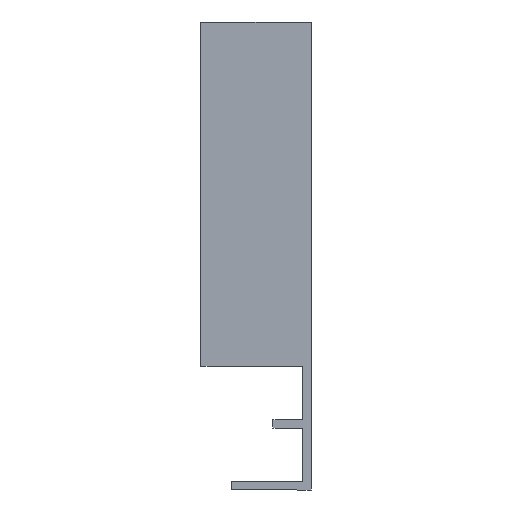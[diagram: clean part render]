
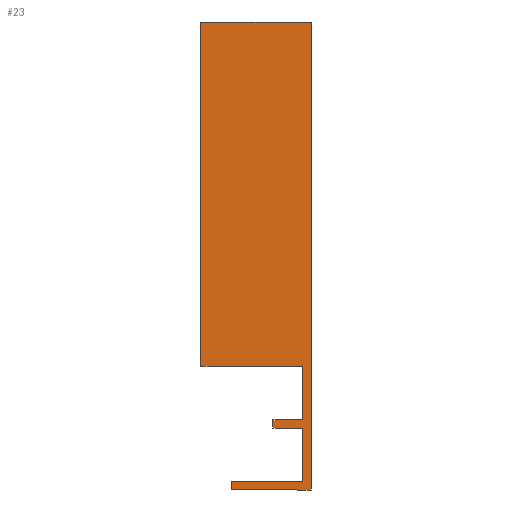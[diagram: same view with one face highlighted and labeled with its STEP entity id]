
A CAD part, left-side view. The second image highlights one B-rep face of the part: STEP entity #23.
In plain terms, the highlighted planar face has unit normal (-1, 0, 0).
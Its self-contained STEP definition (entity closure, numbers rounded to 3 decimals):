
#2 = VERTEX_POINT ( 'NONE', #194 ) ;
#5 = VERTEX_POINT ( 'NONE', #7 ) ;
#7 = CARTESIAN_POINT ( 'NONE',  ( -436.5, 6., -17.9 ) ) ;
#8 = VERTEX_POINT ( 'NONE', #180 ) ;
#23 = ADVANCED_FACE ( 'NONE', ( #307 ), #231, .T. ) ;
#33 = EDGE_CURVE ( 'NONE', #5, #217, #291, .T. ) ;
#34 = EDGE_CURVE ( 'NONE', #171, #221, #292, .T. ) ;
#36 = EDGE_CURVE ( 'NONE', #8, #2, #293, .T. ) ;
#39 = EDGE_CURVE ( 'NONE', #219, #171, #534, .T. ) ;
#40 = EDGE_CURVE ( 'NONE', #210, #219, #530, .T. ) ;
#52 = EDGE_CURVE ( 'NONE', #208, #5, #288, .T. ) ;
#53 = EDGE_CURVE ( 'NONE', #212, #210, #526, .T. ) ;
#57 = EDGE_CURVE ( 'NONE', #221, #193, #124, .T. ) ;
#60 = AXIS2_PLACEMENT_3D ( 'NONE', #234, #240, #241 ) ;
#67 = EDGE_CURVE ( 'NONE', #193, #208, #156, .T. ) ;
#70 = EDGE_CURVE ( 'NONE', #2, #174, #164, .T. ) ;
#76 = EDGE_CURVE ( 'NONE', #217, #8, #148, .T. ) ;
#98 = EDGE_CURVE ( 'NONE', #174, #212, #122, .T. ) ;
#121 = VECTOR ( 'NONE', #450, 1000. ) ;
#122 = LINE ( 'NONE', #449, #121 ) ;
#124 = LINE ( 'NONE', #544, #162 ) ;
#147 = VECTOR ( 'NONE', #420, 1000. ) ;
#148 = LINE ( 'NONE', #419, #147 ) ;
#150 = VECTOR ( 'NONE', #418, 1000. ) ;
#155 = VECTOR ( 'NONE', #412, 1000. ) ;
#156 = LINE ( 'NONE', #411, #155 ) ;
#162 = VECTOR ( 'NONE', #404, 1000. ) ;
#164 = LINE ( 'NONE', #416, #150 ) ;
#171 = VERTEX_POINT ( 'NONE', #461 ) ;
#174 = VERTEX_POINT ( 'NONE', #463 ) ;
#180 = CARTESIAN_POINT ( 'NONE',  ( -436.5, -5.5, 49.7 ) ) ;
#193 = VERTEX_POINT ( 'NONE', #466 ) ;
#194 = CARTESIAN_POINT ( 'NONE',  ( -436.5, 10.4, 49.7 ) ) ;
#208 = VERTEX_POINT ( 'NONE', #460 ) ;
#210 = VERTEX_POINT ( 'NONE', #469 ) ;
#212 = VERTEX_POINT ( 'NONE', #472 ) ;
#217 = VERTEX_POINT ( 'NONE', #477 ) ;
#219 = VERTEX_POINT ( 'NONE', #479 ) ;
#221 = VERTEX_POINT ( 'NONE', #481 ) ;
#231 = PLANE ( 'NONE',  #60 ) ;
#234 = CARTESIAN_POINT ( 'NONE',  ( -436.5, 6., -16.7 ) ) ;
#240 = DIRECTION ( 'NONE',  ( -1., 0., 0. ) ) ;
#241 = DIRECTION ( 'NONE',  ( 0., -1., 0. ) ) ;
#263 = CARTESIAN_POINT ( 'NONE',  ( -436.5, 6., -17.9 ) ) ;
#268 = CARTESIAN_POINT ( 'NONE',  ( -436.5, 0., -8.95 ) ) ;
#269 = DIRECTION ( 'NONE',  ( 0., -1., 0. ) ) ;
#270 = CARTESIAN_POINT ( 'NONE',  ( -436.5, -5.5, 49.7 ) ) ;
#271 = DIRECTION ( 'NONE',  ( 0., -1., 0. ) ) ;
#275 = DIRECTION ( 'NONE',  ( 0., 1., 0. ) ) ;
#276 = DIRECTION ( 'NONE',  ( 0., 0., -1. ) ) ;
#279 = CARTESIAN_POINT ( 'NONE',  ( -436.5, 6., -16.7 ) ) ;
#281 = CARTESIAN_POINT ( 'NONE',  ( -436.5, 0., -7.75 ) ) ;
#282 = DIRECTION ( 'NONE',  ( 0., 0., -1. ) ) ;
#283 = CARTESIAN_POINT ( 'NONE',  ( -436.5, -4.3, -7.75 ) ) ;
#285 = VECTOR ( 'NONE', #275, 1000. ) ;
#288 = LINE ( 'NONE', #279, #521 ) ;
#289 = VECTOR ( 'NONE', #271, 1000. ) ;
#291 = LINE ( 'NONE', #263, #294 ) ;
#292 = LINE ( 'NONE', #268, #289 ) ;
#293 = LINE ( 'NONE', #270, #285 ) ;
#294 = VECTOR ( 'NONE', #269, 1000. ) ;
#307 = FACE_OUTER_BOUND ( 'NONE', #508, .T. ) ;
#331 = ORIENTED_EDGE ( 'NONE', *, *, #67, .T. ) ;
#332 = ORIENTED_EDGE ( 'NONE', *, *, #52, .T. ) ;
#333 = ORIENTED_EDGE ( 'NONE', *, *, #33, .T. ) ;
#334 = ORIENTED_EDGE ( 'NONE', *, *, #76, .T. ) ;
#335 = ORIENTED_EDGE ( 'NONE', *, *, #36, .T. ) ;
#336 = ORIENTED_EDGE ( 'NONE', *, *, #70, .T. ) ;
#365 = ORIENTED_EDGE ( 'NONE', *, *, #34, .T. ) ;
#366 = ORIENTED_EDGE ( 'NONE', *, *, #57, .T. ) ;
#371 = ORIENTED_EDGE ( 'NONE', *, *, #40, .T. ) ;
#372 = ORIENTED_EDGE ( 'NONE', *, *, #39, .T. ) ;
#404 = DIRECTION ( 'NONE',  ( 0., 0., -1. ) ) ;
#411 = CARTESIAN_POINT ( 'NONE',  ( -436.5, -4.3, -16.7 ) ) ;
#412 = DIRECTION ( 'NONE',  ( 0., 1., 0. ) ) ;
#416 = CARTESIAN_POINT ( 'NONE',  ( -436.5, 10.4, 49.7 ) ) ;
#418 = DIRECTION ( 'NONE',  ( 0., 0., -1. ) ) ;
#419 = CARTESIAN_POINT ( 'NONE',  ( -436.5, -5.5, -17.9 ) ) ;
#420 = DIRECTION ( 'NONE',  ( 0., 0., 1. ) ) ;
#449 = CARTESIAN_POINT ( 'NONE',  ( -436.5, 10.4, 0. ) ) ;
#450 = DIRECTION ( 'NONE',  ( 0., -1., 0. ) ) ;
#460 = CARTESIAN_POINT ( 'NONE',  ( -436.5, 6., -16.7 ) ) ;
#461 = CARTESIAN_POINT ( 'NONE',  ( -436.5, 0., -8.95 ) ) ;
#463 = CARTESIAN_POINT ( 'NONE',  ( -436.5, 10.4, 0. ) ) ;
#466 = CARTESIAN_POINT ( 'NONE',  ( -436.5, -4.3, -16.7 ) ) ;
#469 = CARTESIAN_POINT ( 'NONE',  ( -436.5, -4.3, -7.75 ) ) ;
#472 = CARTESIAN_POINT ( 'NONE',  ( -436.5, -4.3, 0. ) ) ;
#477 = CARTESIAN_POINT ( 'NONE',  ( -436.5, -5.5, -17.9 ) ) ;
#479 = CARTESIAN_POINT ( 'NONE',  ( -436.5, 0., -7.75 ) ) ;
#481 = CARTESIAN_POINT ( 'NONE',  ( -436.5, -4.3, -8.95 ) ) ;
#508 = EDGE_LOOP ( 'NONE', ( #331, #332, #333, #334, #335, #336, #520, #509, #371, #372, #365, #366 ) ) ;
#509 = ORIENTED_EDGE ( 'NONE', *, *, #53, .T. ) ;
#520 = ORIENTED_EDGE ( 'NONE', *, *, #98, .T. ) ;
#521 = VECTOR ( 'NONE', #276, 1000. ) ;
#525 = VECTOR ( 'NONE', #540, 1000. ) ;
#526 = LINE ( 'NONE', #541, #525 ) ;
#530 = LINE ( 'NONE', #283, #533 ) ;
#532 = VECTOR ( 'NONE', #282, 1000. ) ;
#533 = VECTOR ( 'NONE', #538, 1000. ) ;
#534 = LINE ( 'NONE', #281, #532 ) ;
#538 = DIRECTION ( 'NONE',  ( 0., 1., 0. ) ) ;
#540 = DIRECTION ( 'NONE',  ( 0., 0., -1. ) ) ;
#541 = CARTESIAN_POINT ( 'NONE',  ( -436.5, -4.3, 0. ) ) ;
#544 = CARTESIAN_POINT ( 'NONE',  ( -436.5, -4.3, -8.95 ) ) ;
